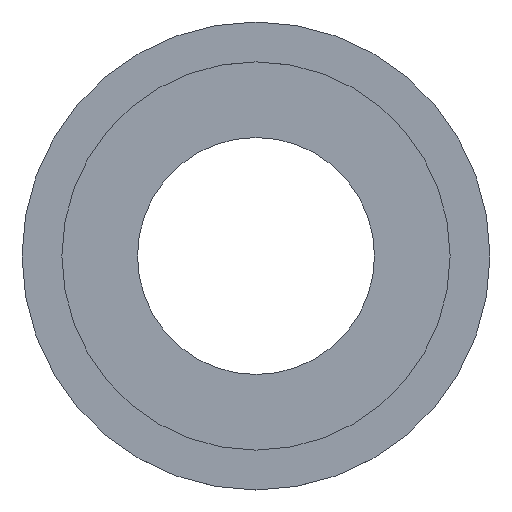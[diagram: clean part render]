
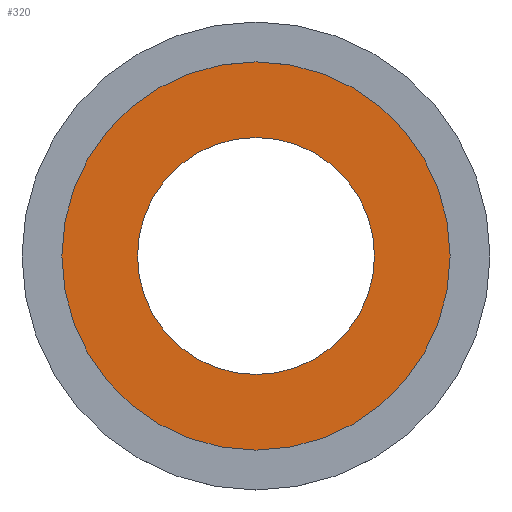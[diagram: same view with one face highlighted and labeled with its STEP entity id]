
A CAD part, top view. The second image highlights one B-rep face of the part: STEP entity #320.
In plain terms, the highlighted planar face has unit normal (0, 0, 1).
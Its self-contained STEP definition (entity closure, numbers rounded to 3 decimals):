
#43 = CYLINDRICAL_SURFACE('',#44,11.6);
#44 = AXIS2_PLACEMENT_3D('',#45,#46,#47);
#45 = CARTESIAN_POINT('',(0.,0.,44.5));
#46 = DIRECTION('',(-0.,-0.,-1.));
#47 = DIRECTION('',(1.,0.,0.));
#254 = CYLINDRICAL_SURFACE('',#255,19.);
#255 = AXIS2_PLACEMENT_3D('',#256,#257,#258);
#256 = CARTESIAN_POINT('',(0.,0.,45.));
#257 = DIRECTION('',(-0.,-0.,-1.));
#258 = DIRECTION('',(1.,0.,0.));
#271 = VERTEX_POINT('',#272);
#272 = CARTESIAN_POINT('',(19.,0.,44.5));
#293 = EDGE_CURVE('',#271,#271,#294,.T.);
#294 = SURFACE_CURVE('',#295,(#300,#307),.PCURVE_S1.);
#295 = CIRCLE('',#296,19.);
#296 = AXIS2_PLACEMENT_3D('',#297,#298,#299);
#297 = CARTESIAN_POINT('',(0.,0.,44.5));
#298 = DIRECTION('',(0.,0.,1.));
#299 = DIRECTION('',(1.,0.,-0.));
#300 = PCURVE('',#254,#301);
#301 = DEFINITIONAL_REPRESENTATION('',(#302),#306);
#302 = LINE('',#303,#304);
#303 = CARTESIAN_POINT('',(-0.,0.5));
#304 = VECTOR('',#305,1.);
#305 = DIRECTION('',(-1.,0.));
#306 = ( GEOMETRIC_REPRESENTATION_CONTEXT(2) 
PARAMETRIC_REPRESENTATION_CONTEXT() REPRESENTATION_CONTEXT('2D SPACE',''
  ) );
#307 = PCURVE('',#308,#313);
#308 = PLANE('',#309);
#309 = AXIS2_PLACEMENT_3D('',#310,#311,#312);
#310 = CARTESIAN_POINT('',(0.,0.,44.5));
#311 = DIRECTION('',(0.,0.,1.));
#312 = DIRECTION('',(1.,0.,-0.));
#313 = DEFINITIONAL_REPRESENTATION('',(#314),#318);
#314 = CIRCLE('',#315,19.);
#315 = AXIS2_PLACEMENT_2D('',#316,#317);
#316 = CARTESIAN_POINT('',(0.,0.));
#317 = DIRECTION('',(1.,0.));
#318 = ( GEOMETRIC_REPRESENTATION_CONTEXT(2) 
PARAMETRIC_REPRESENTATION_CONTEXT() REPRESENTATION_CONTEXT('2D SPACE',''
  ) );
#320 = ADVANCED_FACE('',(#321,#324),#308,.T.);
#321 = FACE_BOUND('',#322,.T.);
#322 = EDGE_LOOP('',(#323));
#323 = ORIENTED_EDGE('',*,*,#293,.T.);
#324 = FACE_BOUND('',#325,.T.);
#325 = EDGE_LOOP('',(#326));
#326 = ORIENTED_EDGE('',*,*,#327,.F.);
#327 = EDGE_CURVE('',#328,#328,#330,.T.);
#328 = VERTEX_POINT('',#329);
#329 = CARTESIAN_POINT('',(11.6,0.,44.5));
#330 = SURFACE_CURVE('',#331,(#336,#343),.PCURVE_S1.);
#331 = CIRCLE('',#332,11.6);
#332 = AXIS2_PLACEMENT_3D('',#333,#334,#335);
#333 = CARTESIAN_POINT('',(0.,0.,44.5));
#334 = DIRECTION('',(0.,0.,1.));
#335 = DIRECTION('',(1.,0.,-0.));
#336 = PCURVE('',#308,#337);
#337 = DEFINITIONAL_REPRESENTATION('',(#338),#342);
#338 = CIRCLE('',#339,11.6);
#339 = AXIS2_PLACEMENT_2D('',#340,#341);
#340 = CARTESIAN_POINT('',(0.,0.));
#341 = DIRECTION('',(1.,0.));
#342 = ( GEOMETRIC_REPRESENTATION_CONTEXT(2) 
PARAMETRIC_REPRESENTATION_CONTEXT() REPRESENTATION_CONTEXT('2D SPACE',''
  ) );
#343 = PCURVE('',#43,#344);
#344 = DEFINITIONAL_REPRESENTATION('',(#345),#349);
#345 = LINE('',#346,#347);
#346 = CARTESIAN_POINT('',(-0.,0.));
#347 = VECTOR('',#348,1.);
#348 = DIRECTION('',(-1.,0.));
#349 = ( GEOMETRIC_REPRESENTATION_CONTEXT(2) 
PARAMETRIC_REPRESENTATION_CONTEXT() REPRESENTATION_CONTEXT('2D SPACE',''
  ) );
